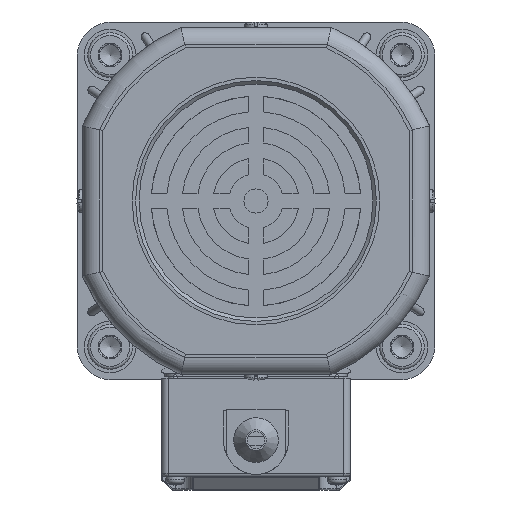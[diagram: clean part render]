
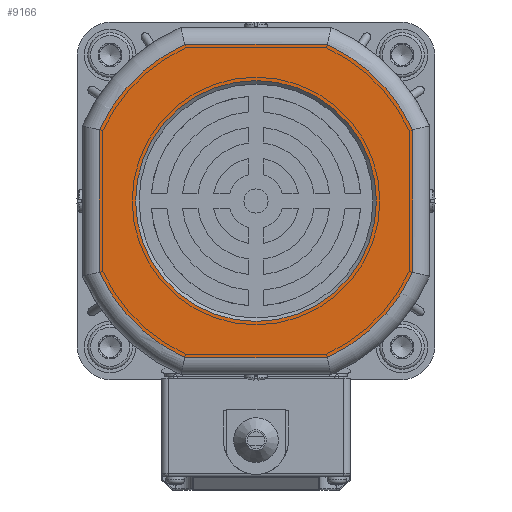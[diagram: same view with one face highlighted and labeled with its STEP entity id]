
A CAD part, left-side view. The second image highlights one B-rep face of the part: STEP entity #9166.
In plain terms, the highlighted planar face has unit normal (-1, 0, 0).
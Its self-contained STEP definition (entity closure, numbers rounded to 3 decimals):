
#1300=LINE('',#49580,#3191);
#1301=LINE('',#49596,#3192);
#1304=LINE('',#49648,#3195);
#1305=LINE('',#49664,#3196);
#3191=VECTOR('',#37971,1.);
#3192=VECTOR('',#37974,1.);
#3195=VECTOR('',#37991,1.);
#3196=VECTOR('',#37994,1.);
#4858=PLANE('',#32809);
#9166=ADVANCED_FACE('',(#10659,#10660),#4858,.F.);
#10659=FACE_BOUND('',#12193,.T.);
#10660=FACE_BOUND('',#12194,.T.);
#12193=EDGE_LOOP('',(#17692));
#12194=EDGE_LOOP('',(#17693,#17694,#17695,#17696,#17697,#17698,#17699,#17700));
#17692=ORIENTED_EDGE('',*,*,#26845,.T.);
#17693=ORIENTED_EDGE('',*,*,#26855,.T.);
#17694=ORIENTED_EDGE('',*,*,#26850,.T.);
#17695=ORIENTED_EDGE('',*,*,#26857,.T.);
#17696=ORIENTED_EDGE('',*,*,#26863,.T.);
#17697=ORIENTED_EDGE('',*,*,#26869,.T.);
#17698=ORIENTED_EDGE('',*,*,#26871,.T.);
#17699=ORIENTED_EDGE('',*,*,#26867,.T.);
#17700=ORIENTED_EDGE('',*,*,#26861,.T.);
#23301=VERTEX_POINT('',#49525);
#23306=VERTEX_POINT('',#49547);
#23307=VERTEX_POINT('',#49549);
#23309=VERTEX_POINT('',#49577);
#23312=VERTEX_POINT('',#49595);
#23313=VERTEX_POINT('',#49611);
#23316=VERTEX_POINT('',#49629);
#23317=VERTEX_POINT('',#49645);
#23320=VERTEX_POINT('',#49663);
#26845=EDGE_CURVE('',#23301,#23301,#30223,.T.);
#26850=EDGE_CURVE('',#23307,#23306,#30227,.T.);
#26855=EDGE_CURVE('',#23309,#23307,#1300,.T.);
#26857=EDGE_CURVE('',#23306,#23312,#1301,.T.);
#26861=EDGE_CURVE('',#23313,#23309,#30230,.T.);
#26863=EDGE_CURVE('',#23312,#23316,#30231,.T.);
#26867=EDGE_CURVE('',#23317,#23313,#1304,.T.);
#26869=EDGE_CURVE('',#23316,#23320,#1305,.T.);
#26871=EDGE_CURVE('',#23320,#23317,#30233,.T.);
#30223=CIRCLE('',#32547,35.);
#30227=CIRCLE('',#32553,50.);
#30230=CIRCLE('',#32559,50.);
#30231=CIRCLE('',#32561,50.);
#30233=CIRCLE('',#32566,50.);
#32547=AXIS2_PLACEMENT_3D('',#49524,#37952,#37953);
#32553=AXIS2_PLACEMENT_3D('',#49548,#37964,#37965);
#32559=AXIS2_PLACEMENT_3D('',#49614,#37980,#37981);
#32561=AXIS2_PLACEMENT_3D('',#49630,#37984,#37985);
#32566=AXIS2_PLACEMENT_3D('',#49667,#37998,#37999);
#32809=AXIS2_PLACEMENT_3D('',#50416,#38676,#38677);
#37952=DIRECTION('',(1.,0.,0.));
#37953=DIRECTION('',(0.,-1.,0.));
#37964=DIRECTION('',(-1.,0.,0.));
#37965=DIRECTION('',(0.,0.,1.));
#37971=DIRECTION('',(0.,-1.,0.));
#37974=DIRECTION('',(0.,0.,1.));
#37980=DIRECTION('',(-1.,0.,0.));
#37981=DIRECTION('',(0.,0.,1.));
#37984=DIRECTION('',(-1.,0.,0.));
#37985=DIRECTION('',(0.,0.,1.));
#37991=DIRECTION('',(0.,0.,-1.));
#37994=DIRECTION('',(0.,1.,0.));
#37998=DIRECTION('',(-1.,0.,0.));
#37999=DIRECTION('',(0.,0.,1.));
#38676=DIRECTION('',(1.,0.,0.));
#38677=DIRECTION('',(0.,0.,1.));
#49524=CARTESIAN_POINT('',(-280.374,-1.839,0.));
#49525=CARTESIAN_POINT('',(-280.374,-36.839,0.));
#49547=CARTESIAN_POINT('',(-280.374,-47.339,-20.73));
#49548=CARTESIAN_POINT('',(-280.374,-1.839,0.));
#49549=CARTESIAN_POINT('',(-280.374,-22.569,-45.5));
#49577=CARTESIAN_POINT('',(-280.374,18.891,-45.5));
#49580=CARTESIAN_POINT('',(-280.374,-23.628,-45.5));
#49595=CARTESIAN_POINT('',(-280.374,-47.339,20.73));
#49596=CARTESIAN_POINT('',(-280.374,-47.339,21.789));
#49611=CARTESIAN_POINT('',(-280.374,43.661,-20.73));
#49614=CARTESIAN_POINT('',(-280.374,-1.839,0.));
#49629=CARTESIAN_POINT('',(-280.374,-22.569,45.5));
#49630=CARTESIAN_POINT('',(-280.374,-1.839,0.));
#49645=CARTESIAN_POINT('',(-280.374,43.661,20.73));
#49648=CARTESIAN_POINT('',(-280.374,43.661,-21.789));
#49663=CARTESIAN_POINT('',(-280.374,18.891,45.5));
#49664=CARTESIAN_POINT('',(-280.374,19.95,45.5));
#49667=CARTESIAN_POINT('',(-280.374,-1.839,0.));
#50416=CARTESIAN_POINT('',(-280.374,-1.839,0.));
